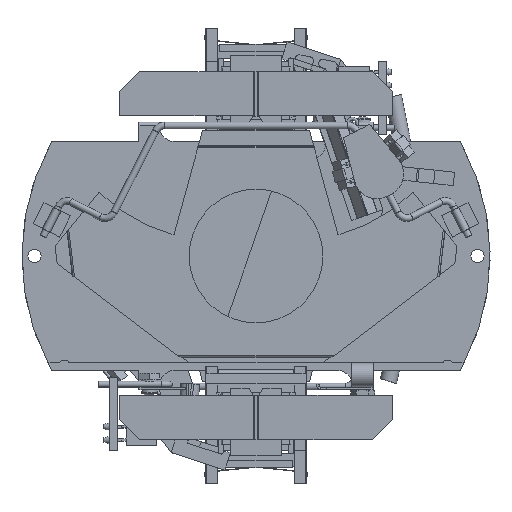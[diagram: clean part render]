
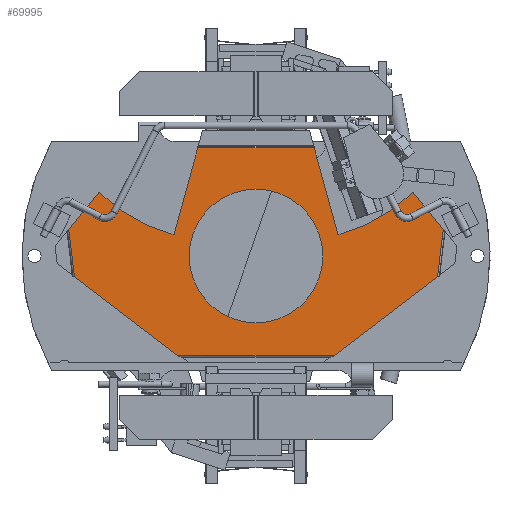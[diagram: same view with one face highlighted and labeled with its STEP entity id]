
A CAD part, top view. The second image highlights one B-rep face of the part: STEP entity #69995.
In plain terms, the highlighted planar face has unit normal (0, 0, 1).
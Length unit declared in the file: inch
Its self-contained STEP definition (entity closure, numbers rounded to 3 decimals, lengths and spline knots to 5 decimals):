
#964 = DIRECTION ( 'NONE',  ( -1., 0., 0. ) ) ;
#1075 = DIRECTION ( 'NONE',  ( -0.795, -0.606, 0. ) ) ;
#1836 = EDGE_CURVE ( 'NONE', #87816, #58189, #85381, .T. ) ;
#2684 = CARTESIAN_POINT ( 'NONE',  ( 0., 0., 0.052 ) ) ;
#3633 = LINE ( 'NONE', #64959, #8240 ) ;
#3813 = CARTESIAN_POINT ( 'NONE',  ( 0.58456, -0.745, 0.052 ) ) ;
#5055 = FACE_OUTER_BOUND ( 'NONE', #73121, .T. ) ;
#7836 = EDGE_CURVE ( 'NONE', #74249, #29302, #16674, .T. ) ;
#8240 = VECTOR ( 'NONE', #44693, 39.37008 ) ;
#8441 = ORIENTED_EDGE ( 'NONE', *, *, #17434, .T. ) ;
#9446 = ORIENTED_EDGE ( 'NONE', *, *, #54004, .F. ) ;
#10165 = EDGE_CURVE ( 'NONE', #29302, #61173, #27789, .T. ) ;
#10355 = EDGE_CURVE ( 'NONE', #34231, #31088, #53221, .T. ) ;
#10604 = CARTESIAN_POINT ( 'NONE',  ( -0.281, 1.396, 0.052 ) ) ;
#12866 = VECTOR ( 'NONE', #62086, 39.37008 ) ;
#13453 = LINE ( 'NONE', #26927, #63528 ) ;
#14590 = DIRECTION ( 'NONE',  ( 0.264, 0.965, 0. ) ) ;
#15754 = DIRECTION ( 'NONE',  ( 0., 0., 1. ) ) ;
#16137 = VERTEX_POINT ( 'NONE', #69870 ) ;
#16674 = LINE ( 'NONE', #37391, #84053 ) ;
#17434 = EDGE_CURVE ( 'NONE', #87816, #24413, #13453, .T. ) ;
#18585 = ORIENTED_EDGE ( 'NONE', *, *, #28075, .F. ) ;
#18712 = ORIENTED_EDGE ( 'NONE', *, *, #1836, .F. ) ;
#22086 = AXIS2_PLACEMENT_3D ( 'NONE', #10604, #30877, #66083 ) ;
#22132 = AXIS2_PLACEMENT_3D ( 'NONE', #85710, #15754, #78489 ) ;
#22253 = CARTESIAN_POINT ( 'NONE',  ( -1.35763, -0.15577, 0.052 ) ) ;
#23284 = CARTESIAN_POINT ( 'NONE',  ( -1.17534, 0.47748, 0.052 ) ) ;
#24313 = EDGE_CURVE ( 'NONE', #45428, #24413, #35414, .T. ) ;
#24413 = VERTEX_POINT ( 'NONE', #22253 ) ;
#25965 = ORIENTED_EDGE ( 'NONE', *, *, #10165, .F. ) ;
#26032 = ORIENTED_EDGE ( 'NONE', *, *, #47812, .F. ) ;
#26256 = ORIENTED_EDGE ( 'NONE', *, *, #24313, .F. ) ;
#26927 = CARTESIAN_POINT ( 'NONE',  ( -1.52591, 1.24661, 0.052 ) ) ;
#27423 = VECTOR ( 'NONE', #14590, 39.37008 ) ;
#27739 = CARTESIAN_POINT ( 'NONE',  ( 1.35763, -0.15577, 0.052 ) ) ;
#27788 = CIRCLE ( 'NONE', #22086, 1.282 ) ;
#27789 = LINE ( 'NONE', #70229, #12866 ) ;
#28075 = EDGE_CURVE ( 'NONE', #61173, #67952, #55599, .T. ) ;
#29302 = VERTEX_POINT ( 'NONE', #78264 ) ;
#30607 = EDGE_CURVE ( 'NONE', #76896, #76896, #81857, .T. ) ;
#30877 = DIRECTION ( 'NONE',  ( 0., 0., 1. ) ) ;
#31088 = VERTEX_POINT ( 'NONE', #81955 ) ;
#31449 = CARTESIAN_POINT ( 'NONE',  ( -1.40028, 0.1997, 0.052 ) ) ;
#34231 = VERTEX_POINT ( 'NONE', #84594 ) ;
#35004 = LINE ( 'NONE', #77436, #83868 ) ;
#35414 = LINE ( 'NONE', #62879, #67901 ) ;
#35774 = EDGE_CURVE ( 'NONE', #31088, #58248, #35004, .T. ) ;
#36418 = ORIENTED_EDGE ( 'NONE', *, *, #7836, .F. ) ;
#36703 = VECTOR ( 'NONE', #1075, 39.37008 ) ;
#37219 = AXIS2_PLACEMENT_3D ( 'NONE', #2684, #70822, #71748 ) ;
#37391 = CARTESIAN_POINT ( 'NONE',  ( 1.17534, 0.47748, 0.052 ) ) ;
#37527 = EDGE_LOOP ( 'NONE', ( #84076 ) ) ;
#39335 = EDGE_CURVE ( 'NONE', #45428, #67952, #3633, .T. ) ;
#40473 = ORIENTED_EDGE ( 'NONE', *, *, #39335, .T. ) ;
#40575 = DIRECTION ( 'NONE',  ( 0.119, -0.993, 0. ) ) ;
#40704 = CARTESIAN_POINT ( 'NONE',  ( -0.281, 1.396, 0.052 ) ) ;
#42235 = VECTOR ( 'NONE', #82571, 39.37008 ) ;
#42654 = DIRECTION ( 'NONE',  ( -0.795, 0.606, 0. ) ) ;
#44087 = ORIENTED_EDGE ( 'NONE', *, *, #35774, .F. ) ;
#44693 = DIRECTION ( 'NONE',  ( 1., 0., 0. ) ) ;
#44716 = AXIS2_PLACEMENT_3D ( 'NONE', #40704, #61356, #964 ) ;
#44878 = CARTESIAN_POINT ( 'NONE',  ( 1.17534, 0.47748, 0.052 ) ) ;
#45428 = VERTEX_POINT ( 'NONE', #72307 ) ;
#47812 = EDGE_CURVE ( 'NONE', #58189, #16137, #27788, .T. ) ;
#49108 = EDGE_CURVE ( 'NONE', #58248, #74249, #84137, .T. ) ;
#50751 = ORIENTED_EDGE ( 'NONE', *, *, #10355, .F. ) ;
#51026 = CARTESIAN_POINT ( 'NONE',  ( -1.17534, 0.47748, 0.052 ) ) ;
#53221 = LINE ( 'NONE', #80804, #42235 ) ;
#54004 = EDGE_CURVE ( 'NONE', #16137, #34231, #83191, .T. ) ;
#55599 = LINE ( 'NONE', #82728, #36703 ) ;
#57133 = CARTESIAN_POINT ( 'NONE',  ( 0.613, 0.15774, 0.052 ) ) ;
#57833 = CARTESIAN_POINT ( 'NONE',  ( -0.5, 0., 0.052 ) ) ;
#58189 = VERTEX_POINT ( 'NONE', #23284 ) ;
#58248 = VERTEX_POINT ( 'NONE', #57133 ) ;
#61173 = VERTEX_POINT ( 'NONE', #27739 ) ;
#61356 = DIRECTION ( 'NONE',  ( 0., 0., -1. ) ) ;
#62086 = DIRECTION ( 'NONE',  ( -0.119, -0.993, 0. ) ) ;
#62879 = CARTESIAN_POINT ( 'NONE',  ( -1.562, 0., 0.052 ) ) ;
#63528 = VECTOR ( 'NONE', #40575, 39.37008 ) ;
#64959 = CARTESIAN_POINT ( 'NONE',  ( -0.281, -0.745, 0.052 ) ) ;
#66083 = DIRECTION ( 'NONE',  ( -1., 0., 0. ) ) ;
#66268 = VECTOR ( 'NONE', #78617, 39.37008 ) ;
#66832 = FACE_BOUND ( 'NONE', #37527, .T. ) ;
#67901 = VECTOR ( 'NONE', #42654, 39.37008 ) ;
#67952 = VERTEX_POINT ( 'NONE', #3813 ) ;
#69870 = CARTESIAN_POINT ( 'NONE',  ( -0.613, 0.15774, 0.052 ) ) ;
#69995 = ADVANCED_FACE ( 'NONE', ( #66832, #5055 ), #81269, .F. ) ;
#70229 = CARTESIAN_POINT ( 'NONE',  ( 1.51793, 1.18013, 0.052 ) ) ;
#70639 = DIRECTION ( 'NONE',  ( 0.264, -0.965, 0. ) ) ;
#70822 = DIRECTION ( 'NONE',  ( 0., 0., -1. ) ) ;
#71256 = DIRECTION ( 'NONE',  ( 0.629, -0.777, 0. ) ) ;
#71748 = DIRECTION ( 'NONE',  ( -1., 0., 0. ) ) ;
#72307 = CARTESIAN_POINT ( 'NONE',  ( -0.58456, -0.745, 0.052 ) ) ;
#73121 = EDGE_LOOP ( 'NONE', ( #26256, #40473, #18585, #25965, #36418, #86427, #44087, #50751, #9446, #26032, #18712, #8441 ) ) ;
#74249 = VERTEX_POINT ( 'NONE', #44878 ) ;
#76896 = VERTEX_POINT ( 'NONE', #57833 ) ;
#77436 = CARTESIAN_POINT ( 'NONE',  ( 0.4, 0.937, 0.052 ) ) ;
#78264 = CARTESIAN_POINT ( 'NONE',  ( 1.40028, 0.1997, 0.052 ) ) ;
#78489 = DIRECTION ( 'NONE',  ( 1., 0., 0. ) ) ;
#78617 = DIRECTION ( 'NONE',  ( 0.629, 0.777, 0. ) ) ;
#80804 = CARTESIAN_POINT ( 'NONE',  ( -0.281, 0.808, 0.052 ) ) ;
#81269 = PLANE ( 'NONE',  #44716 ) ;
#81857 = CIRCLE ( 'NONE', #37219, 0.5 ) ;
#81955 = CARTESIAN_POINT ( 'NONE',  ( 0.43526, 0.808, 0.052 ) ) ;
#82571 = DIRECTION ( 'NONE',  ( 1., 0., 0. ) ) ;
#82722 = CARTESIAN_POINT ( 'NONE',  ( -0.4, 0.937, 0.052 ) ) ;
#82728 = CARTESIAN_POINT ( 'NONE',  ( 1.562, 0., 0.052 ) ) ;
#83191 = LINE ( 'NONE', #82722, #27423 ) ;
#83868 = VECTOR ( 'NONE', #70639, 39.37008 ) ;
#84053 = VECTOR ( 'NONE', #71256, 39.37008 ) ;
#84076 = ORIENTED_EDGE ( 'NONE', *, *, #30607, .T. ) ;
#84137 = CIRCLE ( 'NONE', #22132, 1.282 ) ;
#84594 = CARTESIAN_POINT ( 'NONE',  ( -0.43526, 0.808, 0.052 ) ) ;
#85381 = LINE ( 'NONE', #51026, #66268 ) ;
#85710 = CARTESIAN_POINT ( 'NONE',  ( 0.281, 1.396, 0.052 ) ) ;
#86427 = ORIENTED_EDGE ( 'NONE', *, *, #49108, .F. ) ;
#87816 = VERTEX_POINT ( 'NONE', #31449 ) ;
